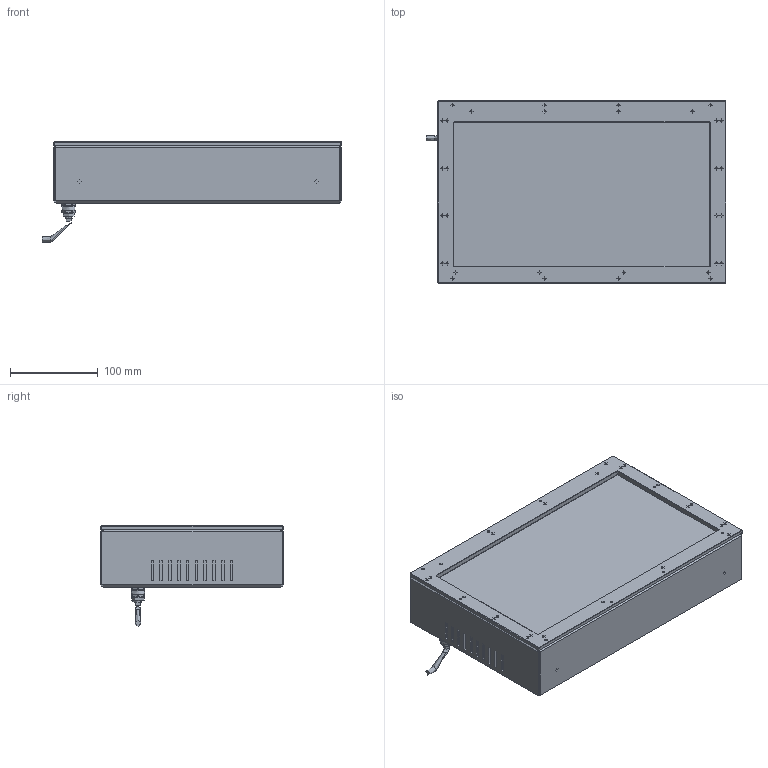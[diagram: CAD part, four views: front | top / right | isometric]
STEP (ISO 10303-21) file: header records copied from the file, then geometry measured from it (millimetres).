
FILE_DESCRIPTION (( 'STEP AP203' ), '1' );
FILE_NAME ('OPT-PCP290160-X-V1.0尨砩芞.STEP', '2025-02-12T01:17:24', ( '' ), ( '' ), 'SwSTEP 2.0', 'SolidWorks 2016', '' );
FILE_SCHEMA (( 'CONFIG_CONTROL_DESIGN' ));
Length unit declared in the file: millimetre
Products named in the file (1): OPT-PCP290160-X-V1.0尨砩芞
Bounding box: 341.2 x 208 x 114.25 mm (x, y, z)
Topology: 0 solids, 103 shells, 2115 faces, 5609 edges, 3624 vertices
Faces by surface type: plane 1681, cylinder 318, cone 83, bspline 33
Full cylindrical faces by diameter (mm): 0.457 x3, 1.6 x32, 2.4 x32, 4.2 x4, 6 x4, 6.5 x2, 7 x1, 12 x1, 14.5 x1, 15 x1
Entity records: 67405 total; most frequent: CARTESIAN_POINT 17853, ORIENTED_EDGE 10012, DIRECTION 9060, EDGE_CURVE 5477, LINE 4150, VECTOR 4150, VERTEX_POINT 3601, EDGE_LOOP 2477
